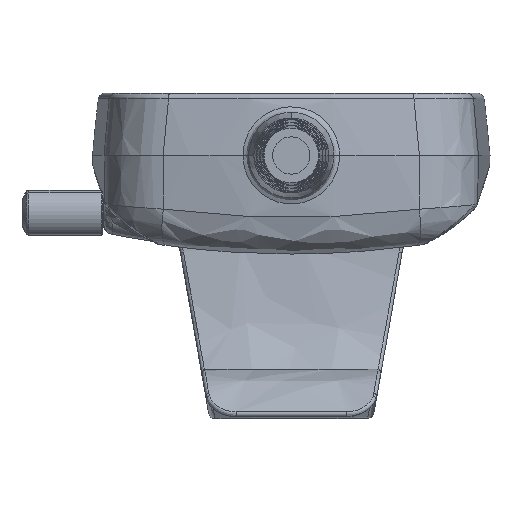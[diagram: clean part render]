
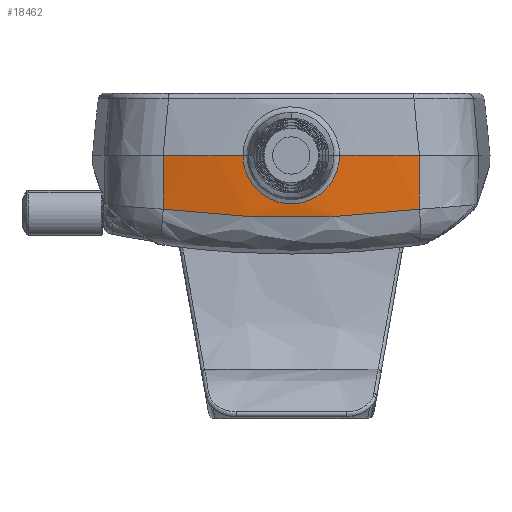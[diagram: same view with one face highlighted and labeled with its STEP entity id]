
A CAD part, front view. The second image highlights one B-rep face of the part: STEP entity #18462.
In plain terms, the highlighted conical face has half-angle 1 degrees and reference radius 100 mm.
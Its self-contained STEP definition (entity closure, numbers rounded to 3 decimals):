
#957 = VERTEX_POINT ( 'NONE', #17936 ) ;
#1121 = VERTEX_POINT ( 'NONE', #17772 ) ;
#1250 = VERTEX_POINT ( 'NONE', #17640 ) ;
#1259 = VERTEX_POINT ( 'NONE', #17631 ) ;
#1261 = VERTEX_POINT ( 'NONE', #17629 ) ;
#1288 = VERTEX_POINT ( 'NONE', #17602 ) ;
#1853 = EDGE_LOOP ( 'NONE', ( #23703, #23696, #23346, #23600, #23589, #23662 ) ) ;
#3585 = DIRECTION ( 'NONE',  ( 1., 0., 0. ) ) ;
#3586 = DIRECTION ( 'NONE',  ( 0., 0., -1. ) ) ;
#3610 = CARTESIAN_POINT ( 'NONE',  ( -0.994, 5.012, 0. ) ) ;
#3755 = B_SPLINE_CURVE_WITH_KNOTS ( 'NONE', 3,
 ( #22864, #22858, #22857, #22856, #22855, #22853, #22851, #22850, #22848, #22847, #22846, #22845, #22843, #22841, #22840, #22838, #22837, #22835, #22834, #22832, #22831, #22830, #22829, #22827, #22825, #22824, #22822, #22821, #22820, #22819, #22817, #22815, #22814, #22812, #22811, #22809, #22808, #22806, #22805, #22804, #22803, #22801 ),
 .UNSPECIFIED., .F., .F.,
 ( 4, 2, 2, 2, 2, 2, 2, 2, 2, 2, 2, 2, 2, 2, 2, 2, 2, 2, 2, 2, 4 ),
 ( 0., 0.002, 0.003, 0.004, 0.005, 0.006, 0.008, 0.008, 0.009, 0.011, 0.012, 0.014, 0.015, 0.015, 0.017, 0.018, 0.019, 0.02, 0.022, 0.023, 0.025 ),
 .UNSPECIFIED. ) ;
#3757 = B_SPLINE_CURVE_WITH_KNOTS ( 'NONE', 3,
 ( #22785, #22769, #22767, #22765, #22764, #22761, #22760, #22759, #22758, #22757, #22756, #22755, #22754 ),
 .UNSPECIFIED., .F., .F.,
 ( 4, 2, 2, 1, 2, 2, 4 ),
 ( 0., 0.25, 0.375, 0.438, 0.469, 0.5, 1. ),
 .UNSPECIFIED. ) ;
#10562 = CARTESIAN_POINT ( 'NONE',  ( -0.994, 5.012, 0. ) ) ;
#10625 = DIRECTION ( 'NONE',  ( 1., 0., 0. ) ) ;
#10627 = DIRECTION ( 'NONE',  ( 0., 0., 1. ) ) ;
#11625 = AXIS2_PLACEMENT_3D ( 'NONE', #3610, #3586, #3585 ) ;
#16143 = LINE ( 'NONE', #22939, #16146 ) ;
#16146 = VECTOR ( 'NONE', #22938, 1000. ) ;
#16174 = LINE ( 'NONE', #22795, #16175 ) ;
#16175 = VECTOR ( 'NONE', #22794, 1000. ) ;
#16187 = CIRCLE ( 'NONE', #27533, 100. ) ;
#17602 = CARTESIAN_POINT ( 'NONE',  ( 19.614, -92.841, 0. ) ) ;
#17629 = CARTESIAN_POINT ( 'NONE',  ( 19.583, -92.694, -8.635 ) ) ;
#17631 = CARTESIAN_POINT ( 'NONE',  ( -21.603, -92.841, 0. ) ) ;
#17640 = CARTESIAN_POINT ( 'NONE',  ( -8.761, -94.686, 0. ) ) ;
#17772 = CARTESIAN_POINT ( 'NONE',  ( -21.572, -92.694, -8.635 ) ) ;
#17936 = CARTESIAN_POINT ( 'NONE',  ( 6.772, -94.686, 0. ) ) ;
#18462 = ADVANCED_FACE ( 'NONE', ( #20992 ), #20993, .T. ) ;
#19044 = CIRCLE ( 'NONE', #11625, 100. ) ;
#20992 = FACE_OUTER_BOUND ( 'NONE', #1853, .T. ) ;
#20993 = CONICAL_SURFACE ( 'NONE', #27430, 100., 0.017 ) ;
#22722 = DIRECTION ( 'NONE',  ( 1., 0., 0. ) ) ;
#22723 = DIRECTION ( 'NONE',  ( 0., 0., -1. ) ) ;
#22725 = CARTESIAN_POINT ( 'NONE',  ( -0.994, 5.012, 0. ) ) ;
#22754 = CARTESIAN_POINT ( 'NONE',  ( 19.583, -92.694, -8.635 ) ) ;
#22755 = CARTESIAN_POINT ( 'NONE',  ( 12.766, -94.114, -9.515 ) ) ;
#22756 = CARTESIAN_POINT ( 'NONE',  ( 5.867, -94.812, -9.955 ) ) ;
#22757 = CARTESIAN_POINT ( 'NONE',  ( -1.393, -94.814, -9.956 ) ) ;
#22758 = CARTESIAN_POINT ( 'NONE',  ( -1.823, -94.811, -9.954 ) ) ;
#22759 = CARTESIAN_POINT ( 'NONE',  ( -2.68, -94.801, -9.948 ) ) ;
#22760 = CARTESIAN_POINT ( 'NONE',  ( -3.967, -94.776, -9.932 ) ) ;
#22761 = CARTESIAN_POINT ( 'NONE',  ( -5.256, -94.728, -9.901 ) ) ;
#22764 = CARTESIAN_POINT ( 'NONE',  ( -7.834, -94.597, -9.819 ) ) ;
#22765 = CARTESIAN_POINT ( 'NONE',  ( -9.555, -94.465, -9.737 ) ) ;
#22767 = CARTESIAN_POINT ( 'NONE',  ( -14.715, -93.937, -9.407 ) ) ;
#22769 = CARTESIAN_POINT ( 'NONE',  ( -18.154, -93.406, -9.076 ) ) ;
#22785 = CARTESIAN_POINT ( 'NONE',  ( -21.572, -92.694, -8.635 ) ) ;
#22794 = DIRECTION ( 'NONE',  ( 0.004, -0.017, 1. ) ) ;
#22795 = CARTESIAN_POINT ( 'NONE',  ( 19.614, -92.841, 0. ) ) ;
#22801 = CARTESIAN_POINT ( 'NONE',  ( -8.761, -94.686, 0. ) ) ;
#22803 = CARTESIAN_POINT ( 'NONE',  ( -8.761, -94.677, -0.514 ) ) ;
#22804 = CARTESIAN_POINT ( 'NONE',  ( -8.711, -94.672, -1.02 ) ) ;
#22805 = CARTESIAN_POINT ( 'NONE',  ( -8.514, -94.669, -2.018 ) ) ;
#22806 = CARTESIAN_POINT ( 'NONE',  ( -8.365, -94.672, -2.514 ) ) ;
#22808 = CARTESIAN_POINT ( 'NONE',  ( -7.977, -94.683, -3.454 ) ) ;
#22809 = CARTESIAN_POINT ( 'NONE',  ( -7.739, -94.692, -3.902 ) ) ;
#22811 = CARTESIAN_POINT ( 'NONE',  ( -7.316, -94.708, -4.539 ) ) ;
#22812 = CARTESIAN_POINT ( 'NONE',  ( -7.163, -94.714, -4.747 ) ) ;
#22814 = CARTESIAN_POINT ( 'NONE',  ( -6.839, -94.727, -5.142 ) ) ;
#22815 = CARTESIAN_POINT ( 'NONE',  ( -6.669, -94.733, -5.331 ) ) ;
#22817 = CARTESIAN_POINT ( 'NONE',  ( -6.133, -94.754, -5.87 ) ) ;
#22819 = CARTESIAN_POINT ( 'NONE',  ( -5.741, -94.768, -6.194 ) ) ;
#22820 = CARTESIAN_POINT ( 'NONE',  ( -4.888, -94.795, -6.767 ) ) ;
#22821 = CARTESIAN_POINT ( 'NONE',  ( -4.44, -94.807, -7.006 ) ) ;
#22822 = CARTESIAN_POINT ( 'NONE',  ( -3.739, -94.823, -7.298 ) ) ;
#22824 = CARTESIAN_POINT ( 'NONE',  ( -3.5, -94.828, -7.384 ) ) ;
#22825 = CARTESIAN_POINT ( 'NONE',  ( -3.013, -94.836, -7.533 ) ) ;
#22827 = CARTESIAN_POINT ( 'NONE',  ( -2.762, -94.84, -7.596 ) ) ;
#22829 = CARTESIAN_POINT ( 'NONE',  ( -2.011, -94.849, -7.747 ) ) ;
#22830 = CARTESIAN_POINT ( 'NONE',  ( -1.507, -94.852, -7.796 ) ) ;
#22831 = CARTESIAN_POINT ( 'NONE',  ( -0.491, -94.852, -7.797 ) ) ;
#22832 = CARTESIAN_POINT ( 'NONE',  ( 0.025, -94.849, -7.746 ) ) ;
#22834 = CARTESIAN_POINT ( 'NONE',  ( 1.021, -94.837, -7.547 ) ) ;
#22835 = CARTESIAN_POINT ( 'NONE',  ( 1.506, -94.828, -7.4 ) ) ;
#22837 = CARTESIAN_POINT ( 'NONE',  ( 2.214, -94.812, -7.106 ) ) ;
#22838 = CARTESIAN_POINT ( 'NONE',  ( 2.447, -94.807, -6.995 ) ) ;
#22840 = CARTESIAN_POINT ( 'NONE',  ( 2.896, -94.794, -6.754 ) ) ;
#22841 = CARTESIAN_POINT ( 'NONE',  ( 3.114, -94.788, -6.623 ) ) ;
#22843 = CARTESIAN_POINT ( 'NONE',  ( 3.745, -94.768, -6.199 ) ) ;
#22845 = CARTESIAN_POINT ( 'NONE',  ( 4.138, -94.754, -5.875 ) ) ;
#22846 = CARTESIAN_POINT ( 'NONE',  ( 4.863, -94.727, -5.148 ) ) ;
#22847 = CARTESIAN_POINT ( 'NONE',  ( 5.183, -94.714, -4.755 ) ) ;
#22848 = CARTESIAN_POINT ( 'NONE',  ( 5.605, -94.698, -4.122 ) ) ;
#22850 = CARTESIAN_POINT ( 'NONE',  ( 5.735, -94.693, -3.904 ) ) ;
#22851 = CARTESIAN_POINT ( 'NONE',  ( 5.976, -94.684, -3.452 ) ) ;
#22853 = CARTESIAN_POINT ( 'NONE',  ( 6.085, -94.68, -3.219 ) ) ;
#22855 = CARTESIAN_POINT ( 'NONE',  ( 6.377, -94.672, -2.512 ) ) ;
#22856 = CARTESIAN_POINT ( 'NONE',  ( 6.523, -94.669, -2.027 ) ) ;
#22857 = CARTESIAN_POINT ( 'NONE',  ( 6.722, -94.672, -1.029 ) ) ;
#22858 = CARTESIAN_POINT ( 'NONE',  ( 6.773, -94.677, -0.514 ) ) ;
#22864 = CARTESIAN_POINT ( 'NONE',  ( 6.772, -94.686, 0. ) ) ;
#22938 = DIRECTION ( 'NONE',  ( 0.004, 0.017, -1. ) ) ;
#22939 = CARTESIAN_POINT ( 'NONE',  ( -21.603, -92.841, 0. ) ) ;
#23346 = ORIENTED_EDGE ( 'NONE', *, *, #31386, .T. ) ;
#23589 = ORIENTED_EDGE ( 'NONE', *, *, #30426, .T. ) ;
#23600 = ORIENTED_EDGE ( 'NONE', *, *, #30364, .T. ) ;
#23662 = ORIENTED_EDGE ( 'NONE', *, *, #30409, .T. ) ;
#23696 = ORIENTED_EDGE ( 'NONE', *, *, #30406, .T. ) ;
#23703 = ORIENTED_EDGE ( 'NONE', *, *, #30435, .T. ) ;
#27430 = AXIS2_PLACEMENT_3D ( 'NONE', #10562, #10627, #10625 ) ;
#27533 = AXIS2_PLACEMENT_3D ( 'NONE', #22725, #22723, #22722 ) ;
#30364 = EDGE_CURVE ( 'NONE', #1259, #1121, #16143, .T. ) ;
#30406 = EDGE_CURVE ( 'NONE', #957, #1250, #3755, .T. ) ;
#30409 = EDGE_CURVE ( 'NONE', #1261, #1288, #16174, .T. ) ;
#30426 = EDGE_CURVE ( 'NONE', #1121, #1261, #3757, .T. ) ;
#30435 = EDGE_CURVE ( 'NONE', #1288, #957, #16187, .T. ) ;
#31386 = EDGE_CURVE ( 'NONE', #1250, #1259, #19044, .T. ) ;
